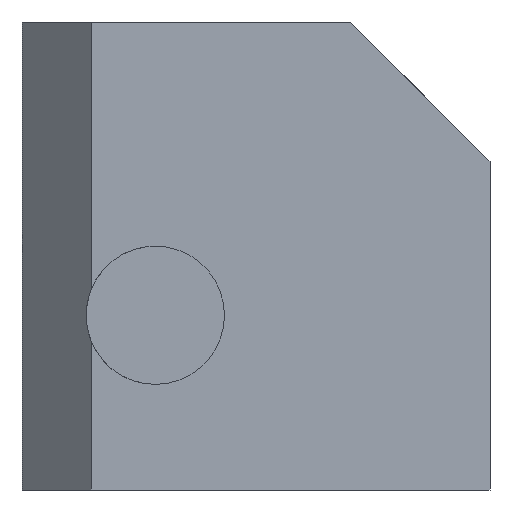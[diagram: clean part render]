
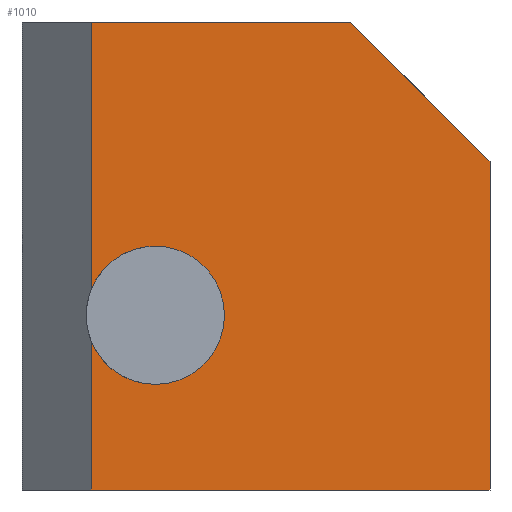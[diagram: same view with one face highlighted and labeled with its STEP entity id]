
A CAD part, left-side view. The second image highlights one B-rep face of the part: STEP entity #1010.
In plain terms, the highlighted planar face has unit normal (-1, 0, 0).
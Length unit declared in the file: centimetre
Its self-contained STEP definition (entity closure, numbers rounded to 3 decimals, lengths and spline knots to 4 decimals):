
#11 = DIRECTION ( 'NONE',  ( 0., 0., -1. ) ) ;
#38 = CIRCLE ( 'NONE', #179, 147.7415 ) ;
#41 = CARTESIAN_POINT ( 'NONE',  ( 0., 1000., 0. ) ) ;
#48 = VERTEX_POINT ( 'NONE', #799 ) ;
#59 = VERTEX_POINT ( 'NONE', #703 ) ;
#70 = LINE ( 'NONE', #1047, #180 ) ;
#98 = EDGE_CURVE ( 'NONE', #403, #48, #995, .T. ) ;
#99 = LINE ( 'NONE', #334, #962 ) ;
#122 = DIRECTION ( 'NONE',  ( 0., 0., 1. ) ) ;
#137 = EDGE_CURVE ( 'NONE', #59, #48, #99, .T. ) ;
#145 = EDGE_LOOP ( 'NONE', ( #1032, #397, #438, #286, #1012, #449, #214, #1043, #433 ) ) ;
#159 = AXIS2_PLACEMENT_3D ( 'NONE', #827, #821, #643 ) ;
#166 = PLANE ( 'NONE',  #597 ) ;
#179 = AXIS2_PLACEMENT_3D ( 'NONE', #601, #1001, #122 ) ;
#180 = VECTOR ( 'NONE', #312, 100. ) ;
#187 = CARTESIAN_POINT ( 'NONE',  ( 0., 852.1283, 1000. ) ) ;
#206 = CARTESIAN_POINT ( 'NONE',  ( 0., 852.1283, 0. ) ) ;
#214 = ORIENTED_EDGE ( 'NONE', *, *, #905, .F. ) ;
#245 = VECTOR ( 'NONE', #521, 100. ) ;
#286 = ORIENTED_EDGE ( 'NONE', *, *, #590, .F. ) ;
#307 = DIRECTION ( 'NONE',  ( 0., 0., -1. ) ) ;
#310 = VERTEX_POINT ( 'NONE', #588 ) ;
#312 = DIRECTION ( 'NONE',  ( 0., 0.707, 0.707 ) ) ;
#322 = DIRECTION ( 'NONE',  ( 0., 0., -1. ) ) ;
#324 = DIRECTION ( 'NONE',  ( -1., 0., 0. ) ) ;
#334 = CARTESIAN_POINT ( 'NONE',  ( 0., 852.1283, 1000. ) ) ;
#335 = CARTESIAN_POINT ( 'NONE',  ( 0., 0., 0. ) ) ;
#339 = LINE ( 'NONE', #187, #698 ) ;
#388 = DIRECTION ( 'NONE',  ( 0., 0., 1. ) ) ;
#397 = ORIENTED_EDGE ( 'NONE', *, *, #98, .F. ) ;
#398 = FACE_OUTER_BOUND ( 'NONE', #145, .T. ) ;
#403 = VERTEX_POINT ( 'NONE', #634 ) ;
#412 = CARTESIAN_POINT ( 'NONE',  ( 0., 0., 701.5272 ) ) ;
#419 = EDGE_CURVE ( 'NONE', #941, #562, #600, .T. ) ;
#433 = ORIENTED_EDGE ( 'NONE', *, *, #640, .F. ) ;
#438 = ORIENTED_EDGE ( 'NONE', *, *, #822, .F. ) ;
#449 = ORIENTED_EDGE ( 'NONE', *, *, #419, .T. ) ;
#451 = CARTESIAN_POINT ( 'NONE',  ( 0., 0., 1000. ) ) ;
#509 = VERTEX_POINT ( 'NONE', #412 ) ;
#521 = DIRECTION ( 'NONE',  ( 0., -1., 0. ) ) ;
#541 = CIRCLE ( 'NONE', #159, 147.7415 ) ;
#562 = VERTEX_POINT ( 'NONE', #335 ) ;
#588 = CARTESIAN_POINT ( 'NONE',  ( 0., 298.4728, 1000. ) ) ;
#590 = EDGE_CURVE ( 'NONE', #1037, #729, #541, .T. ) ;
#591 = LINE ( 'NONE', #1006, #899 ) ;
#597 = AXIS2_PLACEMENT_3D ( 'NONE', #970, #725, #322 ) ;
#600 = LINE ( 'NONE', #41, #245 ) ;
#601 = CARTESIAN_POINT ( 'NONE',  ( 0., 715.1486, 373.3653 ) ) ;
#634 = CARTESIAN_POINT ( 'NONE',  ( 0., 715.1486, 521.1068 ) ) ;
#640 = EDGE_CURVE ( 'NONE', #59, #310, #591, .T. ) ;
#643 = DIRECTION ( 'NONE',  ( 0., 0., 1. ) ) ;
#663 = DIRECTION ( 'NONE',  ( 0., 0., -1. ) ) ;
#664 = EDGE_CURVE ( 'NONE', #1037, #941, #339, .T. ) ;
#698 = VECTOR ( 'NONE', #663, 100. ) ;
#703 = CARTESIAN_POINT ( 'NONE',  ( 0., 852.1283, 1000. ) ) ;
#720 = CARTESIAN_POINT ( 'NONE',  ( 0., 852.1283, 318.0108 ) ) ;
#725 = DIRECTION ( 'NONE',  ( 1., 0., 0. ) ) ;
#729 = VERTEX_POINT ( 'NONE', #755 ) ;
#735 = VECTOR ( 'NONE', #307, 100. ) ;
#755 = CARTESIAN_POINT ( 'NONE',  ( 0., 715.1486, 225.6238 ) ) ;
#786 = CARTESIAN_POINT ( 'NONE',  ( 0., 715.1486, 373.3653 ) ) ;
#799 = CARTESIAN_POINT ( 'NONE',  ( 0., 852.1283, 428.7197 ) ) ;
#821 = DIRECTION ( 'NONE',  ( -1., 0., 0. ) ) ;
#822 = EDGE_CURVE ( 'NONE', #729, #403, #38, .T. ) ;
#826 = AXIS2_PLACEMENT_3D ( 'NONE', #786, #324, #388 ) ;
#827 = CARTESIAN_POINT ( 'NONE',  ( 0., 715.1486, 373.3653 ) ) ;
#871 = LINE ( 'NONE', #451, #735 ) ;
#899 = VECTOR ( 'NONE', #1002, 100. ) ;
#905 = EDGE_CURVE ( 'NONE', #509, #562, #871, .T. ) ;
#941 = VERTEX_POINT ( 'NONE', #206 ) ;
#962 = VECTOR ( 'NONE', #11, 100. ) ;
#970 = CARTESIAN_POINT ( 'NONE',  ( 0., 1000., 1000. ) ) ;
#995 = CIRCLE ( 'NONE', #826, 147.7415 ) ;
#1001 = DIRECTION ( 'NONE',  ( -1., 0., 0. ) ) ;
#1002 = DIRECTION ( 'NONE',  ( 0., -1., 0. ) ) ;
#1006 = CARTESIAN_POINT ( 'NONE',  ( 0., 1000., 1000. ) ) ;
#1010 = ADVANCED_FACE ( 'NONE', ( #398 ), #166, .F. ) ;
#1012 = ORIENTED_EDGE ( 'NONE', *, *, #664, .T. ) ;
#1032 = ORIENTED_EDGE ( 'NONE', *, *, #137, .T. ) ;
#1037 = VERTEX_POINT ( 'NONE', #720 ) ;
#1040 = EDGE_CURVE ( 'NONE', #509, #310, #70, .T. ) ;
#1043 = ORIENTED_EDGE ( 'NONE', *, *, #1040, .T. ) ;
#1047 = CARTESIAN_POINT ( 'NONE',  ( 0., 298.4728, 1000. ) ) ;
